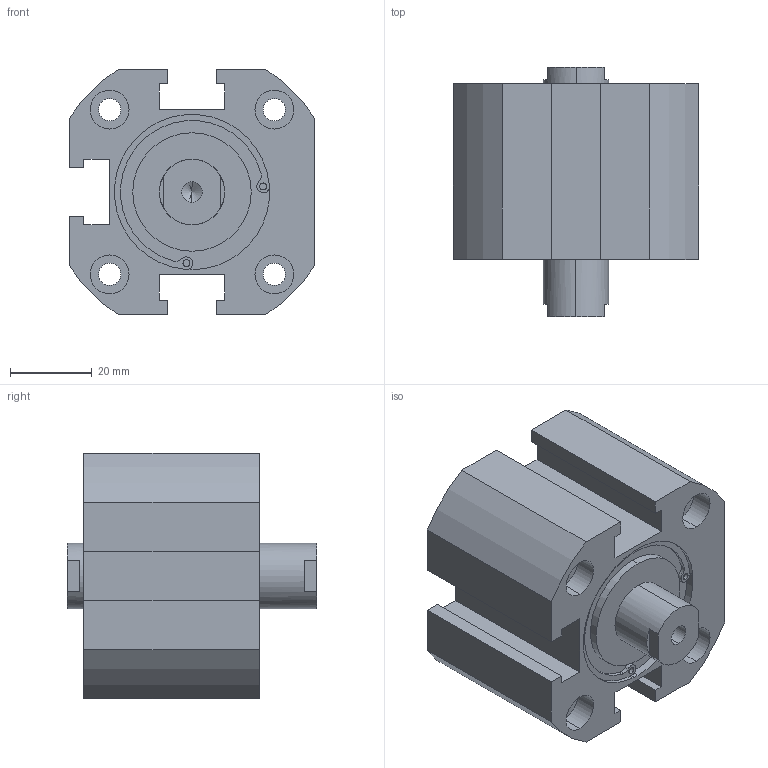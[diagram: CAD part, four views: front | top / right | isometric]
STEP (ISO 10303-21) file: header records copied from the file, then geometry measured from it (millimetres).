
FILE_DESCRIPTION (( 'STEP AP203' ), '1' );
FILE_NAME ('XC#7-40D-10.STEP', '2016-05-23T08:25:39', ( '' ), ( '' ), 'SwSTEP 2.0', 'SolidWorks 2014', '' );
FILE_SCHEMA (( 'CONFIG_CONTROL_DESIGN' ));
Length unit declared in the file: millimetre
Products named in the file (1): XC#7-40D-10
Bounding box: 60 x 61 x 60 mm (x, y, z)
Volume: 119716.1 mm3; surface area: 24701 mm2
Topology: 1 solids, 1 shells, 149 faces, 369 edges, 238 vertices
Faces by surface type: cylinder 77, plane 60, cone 12
Entity records: 4514 total; most frequent: DIRECTION 831, CARTESIAN_POINT 749, ORIENTED_EDGE 722, EDGE_CURVE 361, AXIS2_PLACEMENT_3D 320, VERTEX_POINT 238, VECTOR 191, LINE 191
